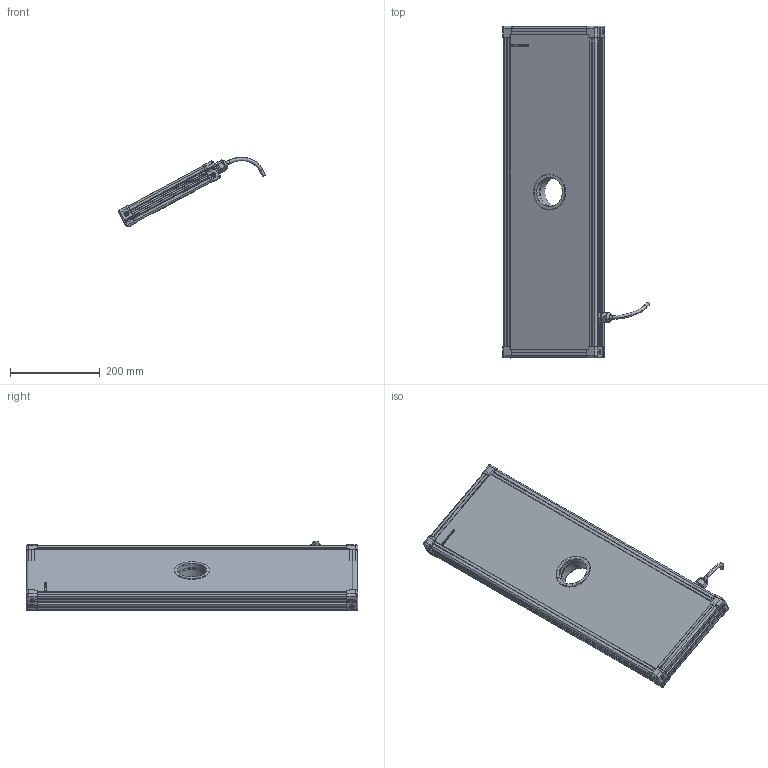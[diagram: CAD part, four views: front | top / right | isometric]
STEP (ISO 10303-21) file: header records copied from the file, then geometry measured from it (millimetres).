
FILE_DESCRIPTION (( 'STEP AP214' ), '1' );
FILE_NAME ('EFFI-FD-200-700-ZZZ-1M12P.STEP', '2021-06-23T09:34:48', ( '' ), ( '' ), 'SwSTEP 2.0', 'SolidWorks 2021', '' );
FILE_SCHEMA (( 'AUTOMOTIVE_DESIGN' ));
Length unit declared in the file: millimetre
Products named in the file (13): M12 power_AVEC CABLE D8.1; Assemblage Ø65; 000590; profile X_PERCE; 004409; 000629; petite joue + vis; EFFI-FD-200-700-ZZZ-1M12P; Pièce13^EFFI-FD-XXX-YYY-ZZZ (1 connecteur) M12POWER Ø65; profile Y_PERCE; petite joue; 004408
Assembly tree (19 placements, depth 3):
  EFFI-FD-200-700-ZZZ-1M12P
    profile X_PERCE  x2
    profile Y_PERCE
    profile Y_PERCE
    Pièce13^EFFI-FD-XXX-YYY-ZZZ (1 connecteur) M12POWER Ø65
    petite joue + vis  x4
      petite joue
      000629
    M12 power_AVEC CABLE D8.1
    Assemblage Ø65
      004408
      004409
      000590  x3
Bounding box: 326.69 x 739 x 155.49 mm (x, y, z)
Volume: 5972825.5 mm3; surface area: 679421.6 mm2
Topology: 22 solids, 25 shells, 3951 faces, 10520 edges, 6907 vertices
Faces by surface type: plane 2447, cylinder 720, bspline 591, cone 156, torus 29, sphere 8
Entity records: 56000 total; most frequent: CARTESIAN_POINT 22561, ORIENTED_EDGE 7014, DIRECTION 5746, EDGE_CURVE 3509, LINE 2458, VECTOR 2458, VERTEX_POINT 2308, AXIS2_PLACEMENT_3D 1644
